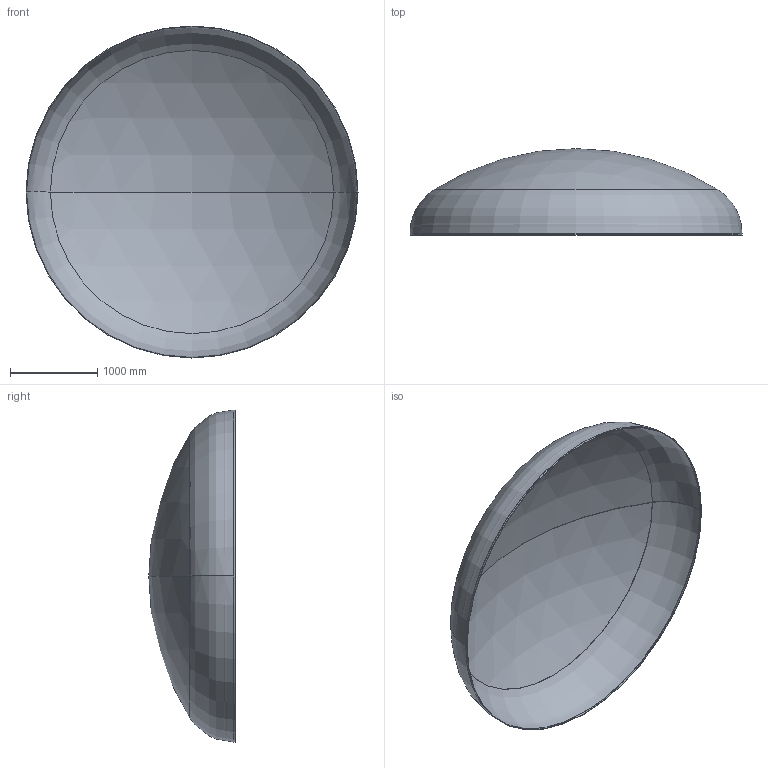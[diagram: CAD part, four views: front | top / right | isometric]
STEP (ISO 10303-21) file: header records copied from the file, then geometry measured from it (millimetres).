
FILE_DESCRIPTION (( 'STEP AP203' ), '1' );
FILE_NAME ('DIN 28013 Korbbogenform_-_Boden DIN 28013 - 3800 x 20 - I - s=6.step', '2016-07-01T20:58:45', ( '' ), ( '' ), 'SwSTEP 2.0', 'SolidWorks 2013', '' );
FILE_SCHEMA (( 'CONFIG_CONTROL_DESIGN' ));
Length unit declared in the file: millimetre
Products named in the file (1): DIN 28013 Korbbogenform_-_Boden DIN 28013 - 3800 x 20 - I - s=6
Bounding box: 3800 x 989.09 x 3800 mm (x, y, z)
Volume: 95481045.7 mm3; surface area: 31898592.6 mm2
Topology: 1 solids, 1 shells, 13 faces, 24 edges, 14 vertices
Faces by surface type: torus 4, cylinder 4, sphere 4, plane 1
Entity records: 407 total; most frequent: DIRECTION 72, CARTESIAN_POINT 52, ORIENTED_EDGE 48, AXIS2_PLACEMENT_3D 34, EDGE_CURVE 24, CIRCLE 20, EDGE_LOOP 14, VERTEX_POINT 14
